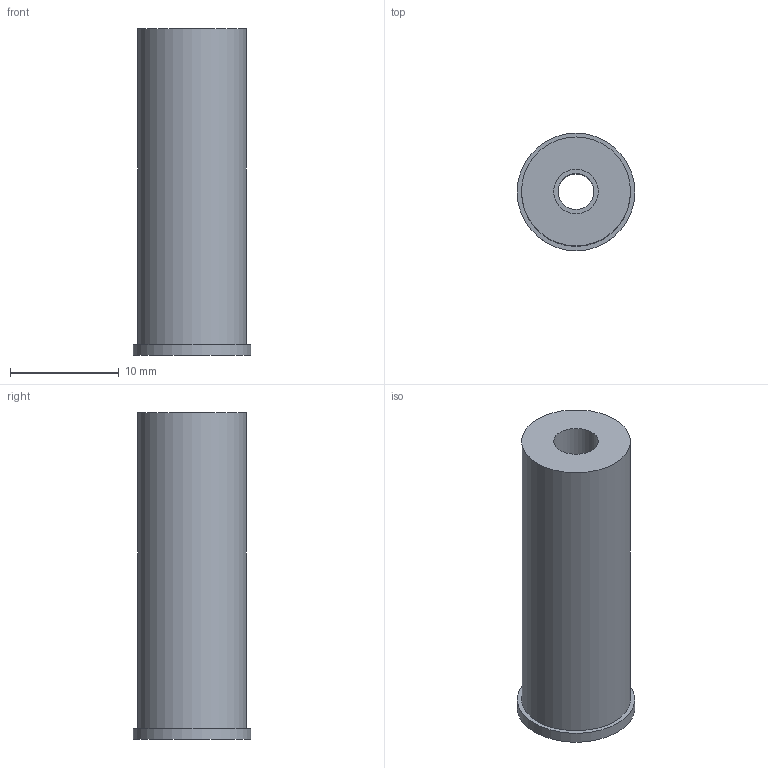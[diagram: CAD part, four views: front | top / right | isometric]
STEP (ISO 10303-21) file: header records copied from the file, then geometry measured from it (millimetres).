
FILE_DESCRIPTION(('Open CASCADE Model'),'2;1');
FILE_NAME('Open CASCADE Shape Model','2026-10-21T12:47:56',('Author'),( 'Open CASCADE'),'Open CASCADE STEP processor 7.9','Open CASCADE 7.9' ,'Unknown');
FILE_SCHEMA(('AUTOMOTIVE_DESIGN { 1 0 10303 214 1 1 1 1 }'));
Length unit declared in the file: millimetre
Products named in the file (1): Open CASCADE STEP translator 7.9 8
Bounding box: 10.8 x 10.8 x 30 mm (x, y, z)
Volume: 2084.8 mm3; surface area: 1437.2 mm2
Topology: 1 solids, 1 shells, 8 faces, 12 edges, 8 vertices
Faces by surface type: cylinder 4, plane 4
Full cylindrical faces by diameter (mm): 3.3 x1, 4.1 x1, 10 x1, 10.8 x1
Entity records: 354 total; most frequent: DIRECTION 62, CARTESIAN_POINT 53, ORIENTED_EDGE 24, PCURVE 24, DEFINITIONAL_REPRESENTATION 24, LINE 20, VECTOR 20, AXIS2_PLACEMENT_3D 17
